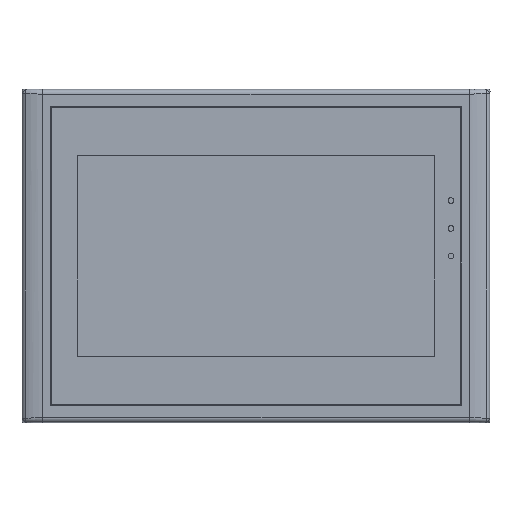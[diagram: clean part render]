
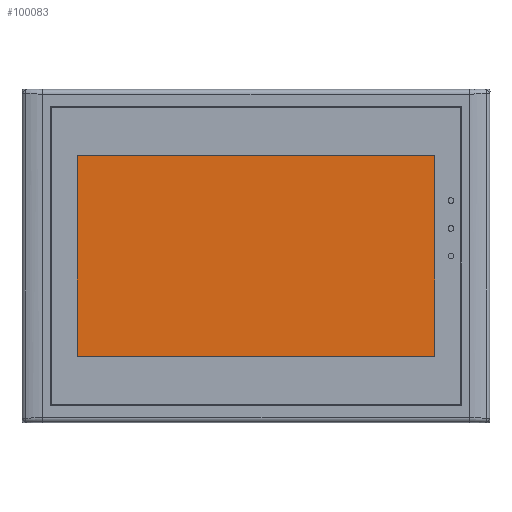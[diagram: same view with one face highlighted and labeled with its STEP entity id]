
A CAD part, top view. The second image highlights one B-rep face of the part: STEP entity #100083.
In plain terms, the highlighted planar face has unit normal (0, 0, 1).
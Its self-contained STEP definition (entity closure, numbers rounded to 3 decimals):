
#99766=DIRECTION('',(-1.,0.,0.));
#99767=VECTOR('',#99766,155.08);
#99768=CARTESIAN_POINT('',(77.54,43.46,-0.55));
#99769=LINE('',#99768,#99767);
#99774=DIRECTION('',(0.,1.,0.));
#99775=VECTOR('',#99774,86.92);
#99776=CARTESIAN_POINT('',(77.54,-43.46,-0.55));
#99777=LINE('',#99776,#99775);
#99782=DIRECTION('',(1.,0.,0.));
#99783=VECTOR('',#99782,155.08);
#99784=CARTESIAN_POINT('',(-77.54,-43.46,-0.55));
#99785=LINE('',#99784,#99783);
#99790=DIRECTION('',(0.,-1.,0.));
#99791=VECTOR('',#99790,86.92);
#99792=CARTESIAN_POINT('',(-77.54,43.46,-0.55));
#99793=LINE('',#99792,#99791);
#99884=CARTESIAN_POINT('',(77.54,43.46,-0.55));
#99885=VERTEX_POINT('',#99884);
#99886=CARTESIAN_POINT('',(-77.54,43.46,-0.55));
#99887=VERTEX_POINT('',#99886);
#99888=CARTESIAN_POINT('',(77.54,-43.46,-0.55));
#99889=VERTEX_POINT('',#99888);
#99890=CARTESIAN_POINT('',(-77.54,-43.46,-0.55));
#99891=VERTEX_POINT('',#99890);
#100072=CARTESIAN_POINT('',(0.,0.,-0.55));
#100073=DIRECTION('',(0.,0.,1.));
#100074=DIRECTION('',(1.,0.,0.));
#100075=AXIS2_PLACEMENT_3D('',#100072,#100073,#100074);
#100076=PLANE('',#100075);
#100077=ORIENTED_EDGE('',*,*,#100024,.F.);
#100078=ORIENTED_EDGE('',*,*,#100039,.F.);
#100079=ORIENTED_EDGE('',*,*,#100053,.F.);
#100080=ORIENTED_EDGE('',*,*,#100066,.F.);
#100081=EDGE_LOOP('',(#100077,#100078,#100079,#100080));
#100082=FACE_OUTER_BOUND('',#100081,.F.);
#100024=EDGE_CURVE('',#99885,#99887,#99769,.T.);
#100039=EDGE_CURVE('',#99889,#99885,#99777,.T.);
#100053=EDGE_CURVE('',#99891,#99889,#99785,.T.);
#100066=EDGE_CURVE('',#99887,#99891,#99793,.T.);
#100083=ADVANCED_FACE('',(#100082),#100076,.T.);
